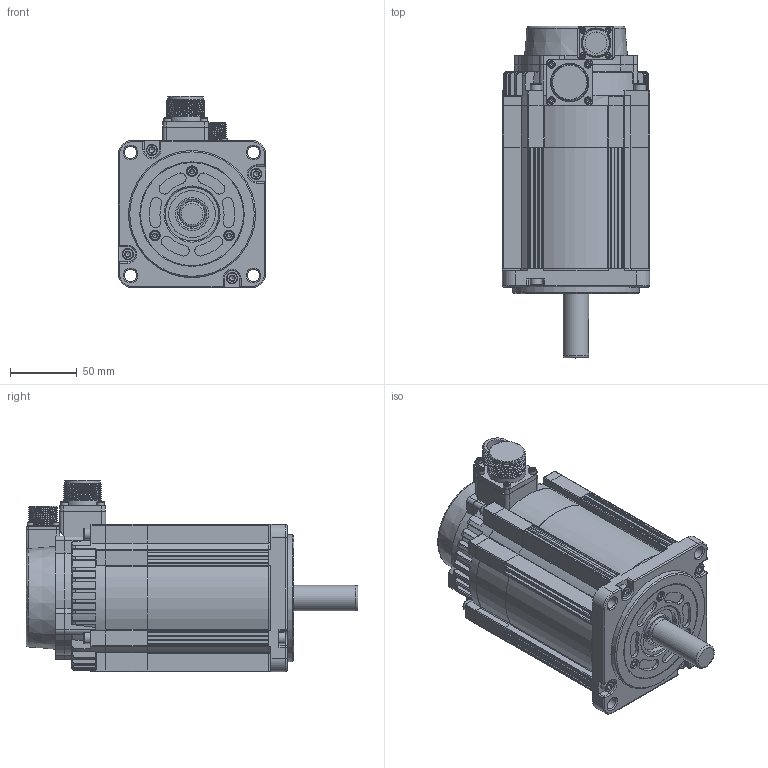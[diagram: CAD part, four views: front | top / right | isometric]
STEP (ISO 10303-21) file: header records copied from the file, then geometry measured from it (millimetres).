
FILE_DESCRIPTION(/* description */ (''),/* implementation_level */ '2;1');
FILE_NAME(/* name */ '110SY-M04030S1-Z.stp',/* time_stamp */ '2023-12-29T08:02:20+08:00',/* author */ (''),/* organization */ (''),/* preprocessor_version */ 'ST-DEVELOPER v18.1',/* originating_system */ 'SIEMENS PLM Software NX 2000',/* authorisation */ '');
FILE_SCHEMA (('AUTOMOTIVE_DESIGN { 1 0 10303 214 3 1 1 1 }'));
Length unit declared in the file: millimetre
Products named in the file (1): 110S1电机外形图(02030) 
Bounding box: 110 x 248 x 143 mm (x, y, z)
Volume: 1871684.4 mm3; surface area: 249206.7 mm2
Topology: 29 solids, 30 shells, 1449 faces, 3495 edges, 2128 vertices
Faces by surface type: plane 609, cylinder 472, cone 211, torus 98, bspline 41, sphere 18
Full cylindrical faces by diameter (mm): 1 x4, 2.3 x4, 2.38 x4, 2.5 x6, 2.874 x4, 3 x4, 3.3 x6, 3.838 x3, 4.2 x8, 4.5 x7, 4.826 x8, 5.5 x12, 7 x3, 8 x3, 8.5 x8, 9 x4, 16 x1, 19 x1, 19.6 x1, 20 x1, 22.288 x1, 24.616 x1, 25 x1, 26 x1, 26.6 x1, 28.5 x8, 35 x1, 40 x2, 77 x2, 95 x1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
Entity records: 47107 total; most frequent: CARTESIAN_POINT 14495, DIRECTION 6923, ORIENTED_EDGE 6362, EDGE_CURVE 3181, AXIS2_PLACEMENT_3D 2739, VERTEX_POINT 2080, EDGE_LOOP 1758, LINE 1445
